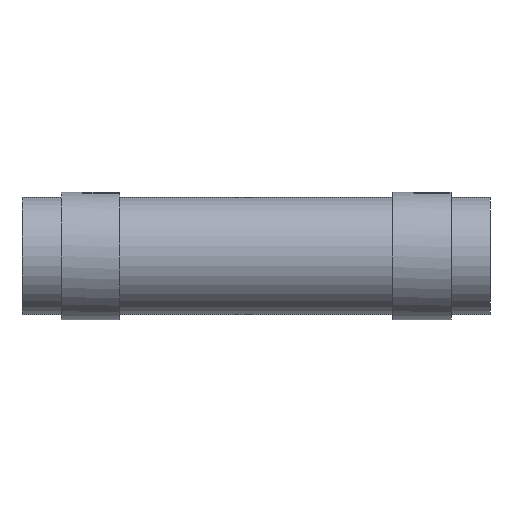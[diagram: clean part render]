
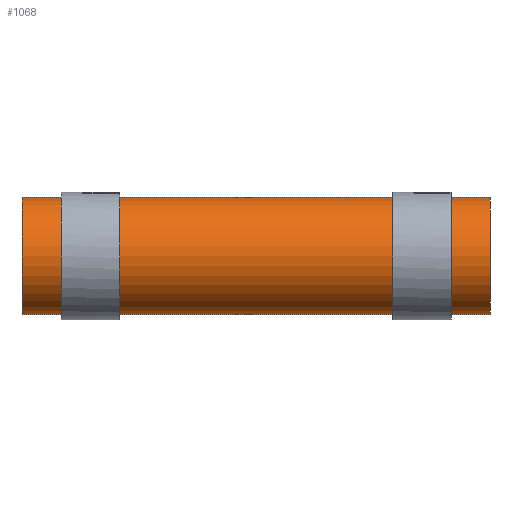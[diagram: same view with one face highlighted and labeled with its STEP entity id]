
A CAD part, front view. The second image highlights one B-rep face of the part: STEP entity #1068.
In plain terms, the highlighted cylindrical face has radius 9.525 mm (diameter 19.05 mm), a partial arc.
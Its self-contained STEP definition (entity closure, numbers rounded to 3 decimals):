
#145 = ORIENTED_EDGE ( 'NONE', *, *, #589, .T. ) ;
#147 = ORIENTED_EDGE ( 'NONE', *, *, #590, .F. ) ;
#148 = ORIENTED_EDGE ( 'NONE', *, *, #587, .F. ) ;
#166 = VERTEX_POINT ( 'NONE', #1342 ) ;
#223 = EDGE_LOOP ( 'NONE', ( #148, #147, #145, #419 ) ) ;
#257 = VERTEX_POINT ( 'NONE', #1338 ) ;
#271 = VERTEX_POINT ( 'NONE', #1244 ) ;
#419 = ORIENTED_EDGE ( 'NONE', *, *, #592, .T. ) ;
#462 = VERTEX_POINT ( 'NONE', #1387 ) ;
#481 = AXIS2_PLACEMENT_3D ( 'NONE', #1380, #1382, #1392 ) ;
#587 = EDGE_CURVE ( 'NONE', #462, #166, #962, .T. ) ;
#589 = EDGE_CURVE ( 'NONE', #271, #257, #973, .T. ) ;
#590 = EDGE_CURVE ( 'NONE', #271, #462, #970, .T. ) ;
#592 = EDGE_CURVE ( 'NONE', #257, #166, #984, .T. ) ;
#626 = AXIS2_PLACEMENT_3D ( 'NONE', #1684, #1525, #1681 ) ;
#629 = AXIS2_PLACEMENT_3D ( 'NONE', #1679, #1678, #1677 ) ;
#962 = LINE ( 'NONE', #1269, #972 ) ;
#970 = CIRCLE ( 'NONE', #626, 9.525 ) ;
#972 = VECTOR ( 'NONE', #1254, 1000. ) ;
#973 = LINE ( 'NONE', #1300, #981 ) ;
#981 = VECTOR ( 'NONE', #1466, 1000. ) ;
#984 = CIRCLE ( 'NONE', #629, 9.525 ) ;
#1015 = FACE_OUTER_BOUND ( 'NONE', #223, .T. ) ;
#1019 = CYLINDRICAL_SURFACE ( 'NONE', #481, 9.525 ) ;
#1068 = ADVANCED_FACE ( 'NONE', ( #1015 ), #1019, .T. ) ;
#1244 = CARTESIAN_POINT ( 'NONE',  ( 38.1, 0., 9.525 ) ) ;
#1254 = DIRECTION ( 'NONE',  ( -1., 0., 0. ) ) ;
#1269 = CARTESIAN_POINT ( 'NONE',  ( 38.1, 0., -9.525 ) ) ;
#1300 = CARTESIAN_POINT ( 'NONE',  ( 38.1, 0., 9.525 ) ) ;
#1338 = CARTESIAN_POINT ( 'NONE',  ( -38.1, 0., 9.525 ) ) ;
#1342 = CARTESIAN_POINT ( 'NONE',  ( -38.1, 0., -9.525 ) ) ;
#1380 = CARTESIAN_POINT ( 'NONE',  ( 38.1, 0., 0. ) ) ;
#1382 = DIRECTION ( 'NONE',  ( -1., 0., 0. ) ) ;
#1387 = CARTESIAN_POINT ( 'NONE',  ( 38.1, 0., -9.525 ) ) ;
#1392 = DIRECTION ( 'NONE',  ( 0., 0., 1. ) ) ;
#1466 = DIRECTION ( 'NONE',  ( -1., 0., 0. ) ) ;
#1525 = DIRECTION ( 'NONE',  ( 1., 0., 0. ) ) ;
#1677 = DIRECTION ( 'NONE',  ( 0., 0., -1. ) ) ;
#1678 = DIRECTION ( 'NONE',  ( 1., 0., 0. ) ) ;
#1679 = CARTESIAN_POINT ( 'NONE',  ( -38.1, 0., 0. ) ) ;
#1681 = DIRECTION ( 'NONE',  ( 0., 0., -1. ) ) ;
#1684 = CARTESIAN_POINT ( 'NONE',  ( 38.1, 0., 0. ) ) ;
